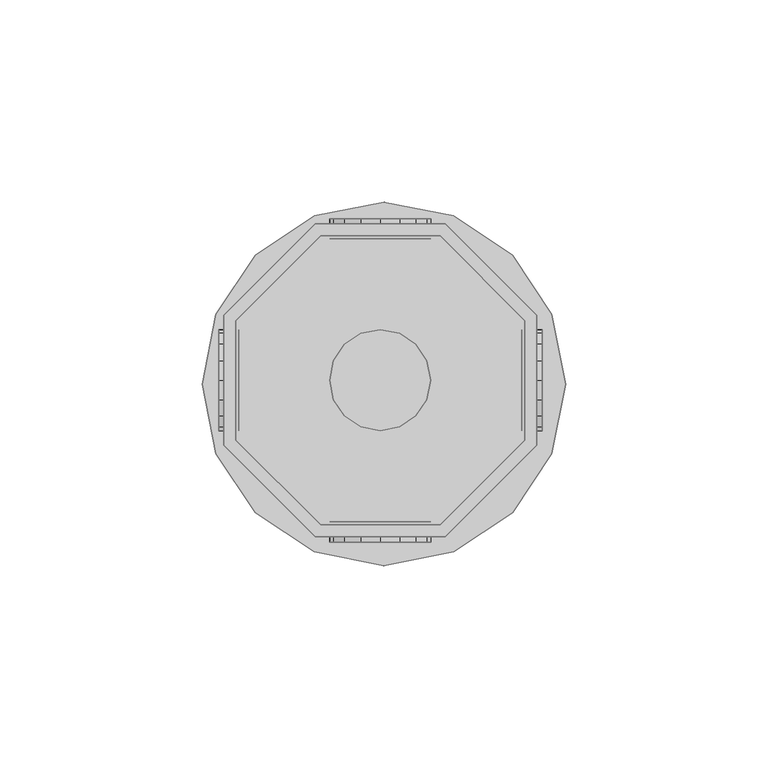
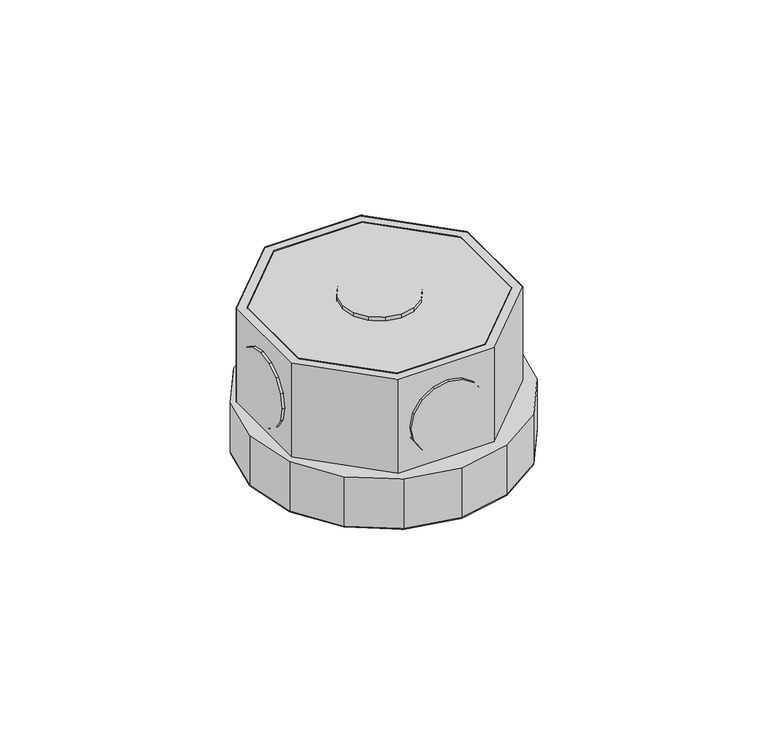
"""IFC4 building model written with IfcOpenShell, lengths in millimetres: light fixture geometry,  213304 :  213304."""

from ifc_helpers import new_model, si_unit, origin, place, context, project, spatial, triangles, source, transform, mapped, element, save


def light_fixture_10d4d364(model_context):
    return source(origin(), model_context, "Body", "Tessellation", [
        triangles([(19800.0007324, 16550.5002411, 2924.5999741), (19770.4002136, 16550.5002411, 2975.400071), (19770.4002136, 16550.5002411, 2924.5999741), (19800.0007324, 16550.5002411, 2975.400071), (19801.2006592, 16476.0001373, 2924.5999741), (19769.100293, 16476.0001373, 2975.400071), (19769.100293, 16476.0001373, 2924.5999741), (19801.2006592, 16476.0001373, 2975.400071), (19749.3991699, 16529.5003601, 2975.400071), (19749.3991699, 16529.5003601, 2924.5999741), (19823.8992737, 16498.6999146, 2924.5999741), (19823.8992737, 16498.6999146, 2975.400071), (19749.3991699, 16499.8998413, 2975.400071), (19749.3991699, 16499.8998413, 2924.5999741), (19823.8992737, 16530.8002808, 2924.5999741), (19823.8992737, 16530.8002808, 2975.400071), (19770.4002136, 16478.9999542, 2975.400071), (19770.4002136, 16478.9999542, 2924.5999741), (19801.2006592, 16553.500058, 2924.5999741), (19801.2006592, 16553.500058, 2975.400071), (19800.0007324, 16478.9999542, 2924.5999741), (19800.0007324, 16478.9999542, 2975.400071), (19769.100293, 16553.500058, 2975.400071), (19769.100293, 16553.500058, 2924.5999741), (19820.8994568, 16499.8998413, 2924.5999741), (19820.8994568, 16499.8998413, 2975.400071), (19746.399353, 16530.8002808, 2975.400071), (19746.399353, 16530.8002808, 2924.5999741), (19746.399353, 16498.6999146, 2975.400071), (19820.8994568, 16529.5003601, 2975.400071), (19820.8994568, 16529.5003601, 2924.5999741), (19746.399353, 16498.6999146, 2924.5999741), (19749.3991699, 16499.8998413, 2972.3999634), (19770.4002136, 16478.9999542, 2972.3999634), (19800.0007324, 16478.9999542, 2972.3999634), (19820.8994568, 16499.8998413, 2972.3999634), (19820.8994568, 16529.5003601, 2972.3999634), (19800.0007324, 16550.5002411, 2972.3999634), (19770.4002136, 16550.5002411, 2972.3999634), (19749.3991699, 16529.5003601, 2972.3999634), (19746.399353, 16530.8002808, 2942.4000504), (19769.100293, 16553.500058, 2942.4000504), (19801.2006592, 16553.500058, 2942.4000504), (19823.8992737, 16530.8002808, 2942.4000504), (19823.8992737, 16498.6999146, 2942.4000504), (19801.2006592, 16476.0001373, 2942.4000504), (19769.100293, 16476.0001373, 2942.4000504), (19746.399353, 16498.6999146, 2942.4000504), (19768.8003113, 16472.3003632, 2942.4000504), (19744.499469, 16496.6000427, 2942.4000504), (19754.198877, 16481.9997711, 2942.4000504), (19741.0996765, 16513.8001556, 2942.4000504), (19744.499469, 16531.1002625, 2942.4000504), (19754.198877, 16545.7005341, 2942.4000504), (19768.8003113, 16555.399942, 2942.4000504), (19786.0992554, 16558.7997345, 2942.4000504), (19803.300531, 16555.399942, 2942.4000504), (19827.5990479, 16531.1002625, 2942.4000504), (19817.8996399, 16545.7005341, 2942.4000504), (19786.0992554, 16468.8005768, 2942.4000504), (19803.300531, 16472.3003632, 2942.4000504), (19817.8996399, 16481.9997711, 2942.4000504), (19827.5990479, 16496.6000427, 2942.4000504), (19831.1011597, 16513.8001556, 2942.4000504), (19744.499469, 16496.6000427, 2924.5999741), (19768.8003113, 16472.3003632, 2924.5999741), (19754.198877, 16481.9997711, 2924.5999741), (19741.0996765, 16513.8001556, 2924.5999741), (19744.499469, 16531.1002625, 2924.5999741), (19754.198877, 16545.7005341, 2924.5999741), (19768.8003113, 16555.399942, 2924.5999741), (19786.0992554, 16558.7997345, 2924.5999741), (19803.300531, 16555.399942, 2924.5999741), (19827.5990479, 16531.1002625, 2924.5999741), (19817.8996399, 16545.7005341, 2924.5999741), (19786.0992554, 16468.8005768, 2924.5999741), (19803.300531, 16472.3003632, 2924.5999741), (19817.8996399, 16481.9997711, 2924.5999741), (19827.5990479, 16496.6000427, 2924.5999741), (19831.1011597, 16513.8001556, 2924.5999741), (19773.6000183, 16554.6999847, 2952.6000092), (19780.3996033, 16554.6999847, 2945.9001274), (19776.2998535, 16554.6999847, 2948.5999626), (19772.7000732, 16554.6999847, 2957.4000069), (19785.1993103, 16554.6999847, 2944.8998978), (19773.6000183, 16554.6999847, 2962.2000046), (19789.9990173, 16554.6999847, 2945.9001274), (19776.2998535, 16554.6999847, 2966.2000511), (19794.0010986, 16554.6999847, 2948.5999626), (19780.3996033, 16554.6999847, 2968.8998863), (19796.7009338, 16554.6999847, 2952.6000092), (19785.1993103, 16554.6999847, 2969.900116), (19797.7008728, 16554.6999847, 2957.4000069), (19789.9990173, 16554.6999847, 2968.8998863), (19796.7009338, 16554.6999847, 2962.2000046), (19794.0010986, 16554.6999847, 2966.2000511), (19780.3996033, 16549.7002899, 2945.9001274), (19773.6000183, 16549.7002899, 2952.6000092), (19776.2998535, 16549.7002899, 2948.5999626), (19785.1993103, 16549.7002899, 2944.8998978), (19772.7000732, 16549.7002899, 2957.4000069), (19789.9990173, 16549.7002899, 2945.9001274), (19773.6000183, 16549.7002899, 2962.2000046), (19794.0010986, 16549.7002899, 2948.5999626), (19776.2998535, 16549.7002899, 2966.2000511), (19780.3996033, 16549.7002899, 2968.8998863), (19796.7009338, 16549.7002899, 2952.6000092), (19785.1993103, 16549.7002899, 2969.900116), (19797.7008728, 16549.7002899, 2957.4000069), (19789.9990173, 16549.7002899, 2968.8998863), (19796.7009338, 16549.7002899, 2962.2000046), (19794.0010986, 16549.7002899, 2966.2000511), (19773.6000183, 16479.6999115, 2952.6000092), (19780.3996033, 16479.6999115, 2945.9001274), (19776.2998535, 16479.6999115, 2948.5999626), (19772.7000732, 16479.6999115, 2957.4000069), (19785.1993103, 16479.6999115, 2944.8998978), (19773.6000183, 16479.6999115, 2962.2000046), (19789.9990173, 16479.6999115, 2945.9001274), (19776.2998535, 16479.6999115, 2966.2000511), (19794.0010986, 16479.6999115, 2948.5999626), (19780.3996033, 16479.6999115, 2968.8998863), (19796.7009338, 16479.6999115, 2952.6000092), (19785.1993103, 16479.6999115, 2969.900116), (19797.7008728, 16479.6999115, 2957.4000069), (19789.9990173, 16479.6999115, 2968.8998863), (19796.7009338, 16479.6999115, 2962.2000046), (19794.0010986, 16479.6999115, 2966.2000511), (19780.3996033, 16474.7002167, 2945.9001274), (19773.6000183, 16474.7002167, 2952.6000092), (19776.2998535, 16474.7002167, 2948.5999626), (19785.1993103, 16474.7002167, 2944.8998978), (19772.7000732, 16474.7002167, 2957.4000069), (19789.9990173, 16474.7002167, 2945.9001274), (19773.6000183, 16474.7002167, 2962.2000046), (19794.0010986, 16474.7002167, 2948.5999626), (19776.2998535, 16474.7002167, 2966.2000511), (19780.3996033, 16474.7002167, 2968.8998863), (19796.7009338, 16474.7002167, 2952.6000092), (19785.1993103, 16474.7002167, 2969.900116), (19797.7008728, 16474.7002167, 2957.4000069), (19789.9990173, 16474.7002167, 2968.8998863), (19796.7009338, 16474.7002167, 2962.2000046), (19794.0010986, 16474.7002167, 2966.2000511), (19750.1991211, 16509.9003937, 2945.9001274), (19750.1991211, 16503.1996399, 2952.6000092), (19750.1991211, 16505.8994751, 2948.5999626), (19750.1991211, 16514.7001007, 2944.8998978), (19750.1991211, 16502.1997009, 2957.4000069), (19750.1991211, 16519.4998077, 2945.9001274), (19750.1991211, 16503.1996399, 2962.2000046), (19750.1991211, 16523.5995575, 2948.5999626), (19750.1991211, 16505.8994751, 2966.2000511), (19750.1991211, 16509.9003937, 2968.8998863), (19750.1991211, 16526.3005554, 2952.6000092), (19750.1991211, 16514.7001007, 2969.900116), (19750.1991211, 16527.2005005, 2957.4000069), (19750.1991211, 16519.4998077, 2968.8998863), (19750.1991211, 16526.3005554, 2962.2000046), (19750.1991211, 16523.5995575, 2966.2000511), (19745.1994263, 16503.1996399, 2952.6000092), (19745.1994263, 16509.9003937, 2945.9001274), (19745.1994263, 16505.8994751, 2948.5999626), (19745.1994263, 16502.1997009, 2957.4000069), (19745.1994263, 16514.7001007, 2944.8998978), (19745.1994263, 16503.1996399, 2962.2000046), (19745.1994263, 16519.4998077, 2945.9001274), (19745.1994263, 16505.8994751, 2966.2000511), (19745.1994263, 16523.5995575, 2948.5999626), (19745.1994263, 16509.9003937, 2968.8998863), (19745.1994263, 16526.3005554, 2952.6000092), (19745.1994263, 16514.7001007, 2969.900116), (19745.1994263, 16527.2005005, 2957.4000069), (19745.1994263, 16519.4998077, 2968.8998863), (19745.1994263, 16526.3005554, 2962.2000046), (19745.1994263, 16523.5995575, 2966.2000511), (19825.1991943, 16509.9003937, 2945.9001274), (19825.1991943, 16503.1996399, 2952.6000092), (19825.1991943, 16505.8994751, 2948.5999626), (19825.1991943, 16514.7001007, 2944.8998978), (19825.1991943, 16502.1997009, 2957.4000069), (19825.1991943, 16519.4998077, 2945.9001274), (19825.1991943, 16503.1996399, 2962.2000046), (19825.1991943, 16523.5995575, 2948.5999626), (19825.1991943, 16505.8994751, 2966.2000511), (19825.1991943, 16509.9003937, 2968.8998863), (19825.1991943, 16526.3005554, 2952.6000092), (19825.1991943, 16514.7001007, 2969.900116), (19825.1991943, 16527.2005005, 2957.4000069), (19825.1991943, 16519.4998077, 2968.8998863), (19825.1991943, 16526.3005554, 2962.2000046), (19825.1991943, 16523.5995575, 2966.2000511), (19820.1994995, 16503.1996399, 2952.6000092), (19820.1994995, 16509.9003937, 2945.9001274), (19820.1994995, 16505.8994751, 2948.5999626), (19820.1994995, 16502.1997009, 2957.4000069), (19820.1994995, 16514.7001007, 2944.8998978), (19820.1994995, 16503.1996399, 2962.2000046), (19820.1994995, 16519.4998077, 2945.9001274), (19820.1994995, 16505.8994751, 2966.2000511), (19820.1994995, 16523.5995575, 2948.5999626), (19820.1994995, 16509.9003937, 2968.8998863), (19820.1994995, 16526.3005554, 2952.6000092), (19820.1994995, 16514.7001007, 2969.900116), (19820.1994995, 16527.2005005, 2957.4000069), (19820.1994995, 16519.4998077, 2968.8998863), (19820.1994995, 16526.3005554, 2962.2000046), (19820.1994995, 16523.5995575, 2966.2000511), (19780.3996033, 16503.1996399, 2976.9999733), (19773.6000183, 16509.9003937, 2976.9999733), (19776.2998535, 16505.8994751, 2976.9999733), (19772.7000732, 16514.7001007, 2976.9999733), (19785.1993103, 16502.1997009, 2976.9999733), (19773.6000183, 16519.4998077, 2976.9999733), (19789.9990173, 16503.1996399, 2976.9999733), (19776.2998535, 16523.5995575, 2976.9999733), (19794.0010986, 16505.8994751, 2976.9999733), (19780.3996033, 16526.3005554, 2976.9999733), (19796.7009338, 16509.9003937, 2976.9999733), (19785.1993103, 16527.2005005, 2976.9999733), (19797.7008728, 16514.7001007, 2976.9999733), (19789.9990173, 16526.3005554, 2976.9999733), (19796.7009338, 16519.4998077, 2976.9999733), (19794.0010986, 16523.5995575, 2976.9999733), (19773.6000183, 16509.9003937, 2971.9999878), (19780.3996033, 16503.1996399, 2971.9999878), (19776.2998535, 16505.8994751, 2971.9999878), (19772.7000732, 16514.7001007, 2971.9999878), (19785.1993103, 16502.1997009, 2971.9999878), (19773.6000183, 16519.4998077, 2971.9999878), (19789.9990173, 16503.1996399, 2971.9999878), (19776.2998535, 16523.5995575, 2971.9999878), (19794.0010986, 16505.8994751, 2971.9999878), (19780.3996033, 16526.3005554, 2971.9999878), (19796.7009338, 16509.9003937, 2971.9999878), (19785.1993103, 16527.2005005, 2971.9999878), (19797.7008728, 16514.7001007, 2971.9999878), (19789.9990173, 16526.3005554, 2971.9999878), (19796.7009338, 16519.4998077, 2971.9999878), (19794.0010986, 16523.5995575, 2971.9999878)], [[1, 2, 3], [2, 1, 4], [5, 6, 7], [6, 5, 8], [3, 9, 10], [9, 3, 2], [11, 8, 5], [8, 11, 12], [10, 13, 14], [13, 10, 9], [15, 12, 11], [12, 15, 16], [14, 17, 18], [17, 14, 13], [19, 16, 15], [16, 19, 20], [17, 21, 18], [21, 17, 22], [23, 19, 24], [19, 23, 20], [22, 25, 21], [25, 22, 26], [27, 24, 28], [24, 27, 23], [6, 13, 29], [29, 13, 27], [27, 13, 9], [27, 9, 23], [23, 9, 2], [23, 2, 4], [23, 4, 20], [20, 4, 30], [8, 17, 6], [6, 17, 13], [17, 8, 22], [12, 22, 8], [22, 12, 26], [30, 26, 12], [16, 30, 12], [20, 30, 16], [30, 1, 31], [1, 30, 4], [6, 32, 7], [32, 6, 29], [32, 14, 7], [28, 14, 32], [14, 28, 10], [24, 10, 28], [10, 24, 3], [1, 3, 24], [19, 1, 24], [31, 1, 19], [7, 18, 5], [14, 18, 7], [5, 18, 21], [5, 21, 11], [11, 21, 25], [11, 25, 31], [11, 31, 15], [15, 31, 19], [26, 31, 25], [31, 26, 30], [29, 28, 32], [28, 29, 27], [17, 33, 34], [33, 17, 13], [35, 17, 34], [17, 35, 22], [36, 22, 35], [22, 36, 26], [37, 26, 36], [26, 37, 30], [38, 30, 37], [30, 38, 4], [2, 38, 39], [38, 2, 4], [17, 9, 13], [9, 17, 22], [9, 22, 2], [2, 22, 26], [2, 26, 4], [4, 26, 30], [13, 40, 33], [40, 13, 9], [40, 34, 33], [35, 34, 40], [35, 40, 39], [35, 39, 36], [36, 39, 38], [36, 38, 37], [9, 39, 40], [39, 9, 2], [24, 41, 28], [41, 24, 42], [19, 42, 24], [42, 19, 43], [44, 19, 15], [19, 44, 43], [45, 15, 11], [15, 45, 44], [46, 11, 5], [11, 46, 45], [47, 5, 7], [5, 47, 46], [32, 47, 7], [47, 32, 48], [28, 48, 32], [48, 28, 41], [49, 50, 51], [48, 50, 49], [50, 48, 52], [41, 52, 48], [52, 41, 53], [53, 41, 54], [42, 54, 41], [54, 42, 55], [55, 42, 43], [55, 43, 56], [56, 43, 57], [57, 43, 44], [57, 44, 58], [57, 58, 59], [47, 49, 60], [49, 47, 48], [47, 60, 46], [61, 46, 60], [46, 61, 62], [46, 62, 45], [45, 62, 63], [44, 45, 63], [44, 63, 64], [44, 64, 58], [65, 66, 67], [66, 65, 32], [68, 32, 65], [32, 68, 28], [28, 68, 69], [70, 28, 69], [28, 70, 24], [71, 24, 70], [19, 24, 71], [19, 71, 72], [73, 19, 72], [19, 73, 15], [74, 15, 73], [74, 73, 75], [76, 66, 7], [32, 7, 66], [5, 76, 7], [76, 5, 77], [77, 5, 78], [11, 78, 5], [78, 11, 79], [79, 11, 15], [79, 15, 80], [80, 15, 74], [57, 75, 73], [75, 57, 59], [56, 73, 72], [73, 56, 57], [55, 72, 71], [72, 55, 56], [54, 71, 70], [71, 54, 55], [53, 70, 69], [70, 53, 54], [52, 69, 68], [69, 52, 53], [50, 68, 65], [68, 50, 52], [51, 65, 67], [65, 51, 50], [66, 51, 67], [51, 66, 49], [76, 49, 66], [49, 76, 60], [77, 60, 76], [60, 77, 61], [78, 61, 77], [61, 78, 62], [79, 62, 78], [62, 79, 63], [80, 63, 79], [63, 80, 64], [75, 58, 74], [58, 75, 59], [74, 64, 80], [64, 74, 58], [81, 82, 83], [82, 81, 84], [85, 82, 84], [85, 84, 86], [87, 85, 86], [87, 86, 88], [87, 88, 89], [89, 88, 90], [89, 90, 91], [91, 90, 92], [91, 92, 93], [93, 92, 94], [93, 94, 95], [95, 94, 96], [97, 98, 99], [98, 97, 100], [101, 98, 100], [101, 100, 102], [103, 101, 102], [103, 102, 104], [103, 104, 105], [105, 104, 106], [106, 104, 107], [106, 107, 108], [108, 107, 109], [108, 109, 110], [110, 109, 111], [110, 111, 112], [87, 104, 102], [104, 87, 89], [85, 102, 100], [102, 85, 87], [82, 100, 97], [100, 82, 85], [83, 97, 99], [97, 83, 82], [98, 83, 99], [83, 98, 81], [101, 81, 98], [81, 101, 84], [103, 84, 101], [84, 103, 86], [105, 86, 103], [86, 105, 88], [106, 88, 105], [88, 106, 90], [108, 90, 106], [90, 108, 92], [110, 92, 108], [92, 110, 94], [112, 94, 110], [94, 112, 96], [95, 112, 111], [112, 95, 96], [93, 111, 109], [111, 93, 95], [89, 107, 104], [107, 89, 91], [91, 109, 107], [109, 91, 93], [113, 114, 115], [114, 113, 116], [117, 114, 116], [117, 116, 118], [119, 117, 118], [119, 118, 120], [119, 120, 121], [121, 120, 122], [121, 122, 123], [123, 122, 124], [123, 124, 125], [125, 124, 126], [125, 126, 127], [127, 126, 128], [129, 130, 131], [130, 129, 132], [133, 130, 132], [133, 132, 134], [135, 133, 134], [135, 134, 136], [135, 136, 137], [137, 136, 138], [138, 136, 139], [138, 139, 140], [140, 139, 141], [140, 141, 142], [142, 141, 143], [142, 143, 144], [119, 136, 134], [136, 119, 121], [117, 134, 132], [134, 117, 119], [114, 132, 129], [132, 114, 117], [115, 129, 131], [129, 115, 114], [130, 115, 131], [115, 130, 113], [133, 113, 130], [113, 133, 116], [135, 116, 133], [116, 135, 118], [137, 118, 135], [118, 137, 120], [138, 120, 137], [120, 138, 122], [140, 122, 138], [122, 140, 124], [142, 124, 140], [124, 142, 126], [144, 126, 142], [126, 144, 128], [127, 144, 143], [144, 127, 128], [125, 143, 141], [143, 125, 127], [121, 139, 136], [139, 121, 123], [123, 141, 139], [141, 123, 125], [145, 146, 147], [146, 145, 148], [149, 146, 148], [149, 148, 150], [151, 149, 150], [151, 150, 152], [151, 152, 153], [153, 152, 154], [154, 152, 155], [154, 155, 156], [156, 155, 157], [156, 157, 158], [158, 157, 159], [158, 159, 160], [161, 162, 163], [162, 161, 164], [165, 162, 164], [165, 164, 166], [167, 165, 166], [167, 166, 168], [169, 167, 168], [169, 168, 170], [169, 170, 171], [171, 170, 172], [171, 172, 173], [173, 172, 174], [173, 174, 175], [175, 174, 176], [158, 176, 174], [176, 158, 160], [156, 174, 172], [174, 156, 158], [154, 172, 170], [172, 154, 156], [153, 170, 168], [170, 153, 154], [151, 168, 166], [168, 151, 153], [149, 166, 164], [166, 149, 151], [146, 164, 161], [164, 146, 149], [147, 161, 163], [161, 147, 146], [162, 147, 163], [147, 162, 145], [165, 145, 162], [145, 165, 148], [167, 148, 165], [148, 167, 150], [169, 150, 167], [150, 169, 152], [171, 152, 169], [152, 171, 155], [173, 155, 171], [155, 173, 157], [176, 159, 175], [159, 176, 160], [175, 157, 173], [157, 175, 159], [177, 178, 179], [178, 177, 180], [181, 178, 180], [181, 180, 182], [183, 181, 182], [183, 182, 184], [183, 184, 185], [185, 184, 186], [186, 184, 187], [186, 187, 188], [188, 187, 189], [188, 189, 190], [190, 189, 191], [190, 191, 192], [193, 194, 195], [194, 193, 196], [197, 194, 196], [197, 196, 198], [199, 197, 198], [199, 198, 200], [201, 199, 200], [201, 200, 202], [201, 202, 203], [203, 202, 204], [203, 204, 205], [205, 204, 206], [205, 206, 207], [207, 206, 208], [190, 208, 206], [208, 190, 192], [188, 206, 204], [206, 188, 190], [186, 204, 202], [204, 186, 188], [185, 202, 200], [202, 185, 186], [183, 200, 198], [200, 183, 185], [181, 198, 196], [198, 181, 183], [178, 196, 193], [196, 178, 181], [179, 193, 195], [193, 179, 178], [194, 179, 195], [179, 194, 177], [197, 177, 194], [177, 197, 180], [199, 180, 197], [180, 199, 182], [201, 182, 199], [182, 201, 184], [203, 184, 201], [184, 203, 187], [205, 187, 203], [187, 205, 189], [208, 191, 207], [191, 208, 192], [207, 189, 205], [189, 207, 191], [209, 210, 211], [212, 210, 209], [212, 209, 213], [214, 212, 213], [214, 213, 215], [216, 214, 215], [216, 215, 217], [216, 217, 218], [218, 217, 219], [218, 219, 220], [220, 219, 221], [220, 221, 222], [222, 221, 223], [222, 223, 224], [225, 226, 227], [226, 225, 228], [229, 226, 228], [229, 228, 230], [231, 229, 230], [231, 230, 232], [231, 232, 233], [233, 232, 234], [233, 234, 235], [235, 234, 236], [235, 236, 237], [237, 236, 238], [237, 238, 239], [239, 238, 240], [222, 240, 238], [240, 222, 224], [220, 238, 236], [238, 220, 222], [218, 236, 234], [236, 218, 220], [216, 234, 232], [234, 216, 218], [214, 232, 230], [232, 214, 216], [212, 230, 228], [230, 212, 214], [210, 228, 225], [228, 210, 212], [211, 225, 227], [225, 211, 210], [226, 211, 227], [211, 226, 209], [229, 209, 226], [209, 229, 213], [231, 213, 229], [213, 231, 215], [233, 215, 231], [215, 233, 217], [235, 217, 233], [217, 235, 219], [237, 219, 235], [219, 237, 221], [240, 223, 239], [223, 240, 224], [239, 221, 237], [221, 239, 223]], closed=False),
    ])


if __name__ == "__main__":
    model = new_model("IFC4")
    model_context = context("Model", 3, world=origin())
    ifc_project = project(units=[si_unit("LENGTHUNIT", "METRE", prefix="MILLI")], contexts=[model_context])
    site = spatial("IfcSite", under=ifc_project)
    building = spatial("IfcBuilding", under=site)
    placement = place(None, origin())
    light_fixture_shape = light_fixture_10d4d364(model_context)
    element("IfcLightFixture", 1, ObjectType=" 213304 :  213304", at=placement, inside=building, context=model_context, shape_type="MappedRepresentation", body=[
        mapped(light_fixture_shape, transform((0.0, 0.0, 0.0), x_axis=(1.0, 0.0, 0.0), y_axis=(0.0, 1.0, 0.0), z_axis=(0.0, 0.0, 1.0))),
    ])
    save(model, "model.ifc")
